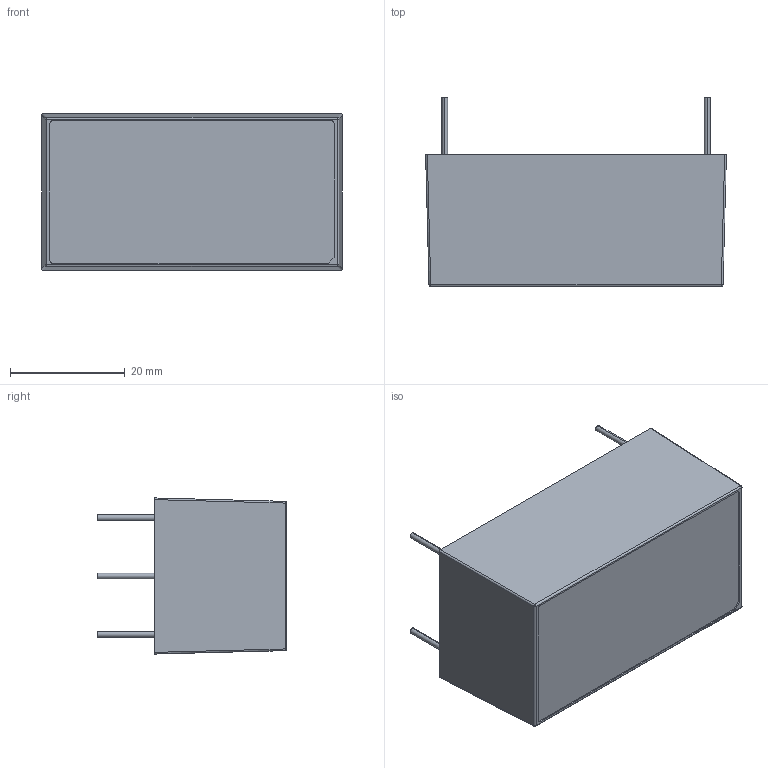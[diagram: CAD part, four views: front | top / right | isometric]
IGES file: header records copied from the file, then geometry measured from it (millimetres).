
Start section: SolidWorks IGES file using analytic representation for surfaces
Global section: file name: C:\Users\rmassa\Desktop\ECL05-10-E.IGS; native system: SolidWorks 2011; preprocessor: SolidWorks 2011; author: rmassa; date: 110304.074621; units: millimetre
Bounding box: 52.4 x 33 x 27.2 mm (x, y, z)
Surface area: 14861.8 mm2 (no closed solid volume)
Topology: 0 solids, 0 shells, 84 faces, 819 edges, 819 vertices
Faces by surface type: bspline 50, revolution 34
